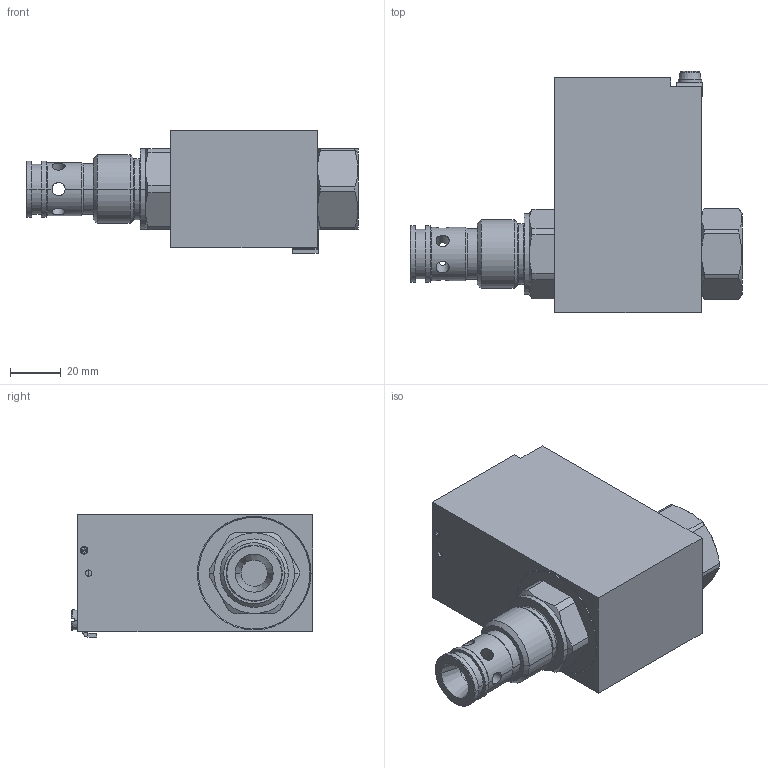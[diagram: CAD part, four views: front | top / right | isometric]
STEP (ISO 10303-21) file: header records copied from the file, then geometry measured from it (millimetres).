
FILE_DESCRIPTION((''),'2;1');
FILE_NAME('ASM0003_ASM','2023-10-05T',('l.soukupova'),(''),'PRO/ENGINEER BY PARAMETRIC TECHNOLOGY CORPORATION, 2015440','PRO/ENGINEER BY PARAMETRIC TECHNOLOGY CORPORATION, 2015440','');
FILE_SCHEMA(('AUTOMOTIVE_DESIGN { 1 0 10303 214 1 1 1 1 }'));
Length unit declared in the file: millimetre
Products named in the file (18): SDXE_C2_H_NO_NUT; SD3EX_C2_H2L2_453991_ASM; 0002710-2-SOLID1; 0002710-3-SOLID1; 0000980-1-SOLID1; 0003649-1-SOLID1; 0000882-1-SOLID1; 0003186-1_0002485-1-SOLID1; 0003186-1_0002629-1-SOLID1; AUFSATZ-LINEAR_AUSTRAGEN1; ASM0001_ASM; EX18-001-D-1-A-012-0_ASM; 0002632; 0003195; 0003194; 0003196_C_0_ASM; 0003196_ASM; ASM0003_ASM
Assembly tree (17 placements, depth 4):
  ASM0003_ASM
    SD3EX_C2_H2L2_453991_ASM
      SDXE_C2_H_NO_NUT
    EX18-001-D-1-A-012-0_ASM
      ASM0001_ASM
        0002710-2-SOLID1
        0002710-3-SOLID1
        0000980-1-SOLID1
        0003649-1-SOLID1
        0000882-1-SOLID1
        0003186-1_0002485-1-SOLID1
        0003186-1_0002629-1-SOLID1
        AUFSATZ-LINEAR_AUSTRAGEN1
    0003196_ASM
      0003196_C_0_ASM
        0002632
        0003195
        0003194
Bounding box: 130.85 x 95 x 48.25 mm (x, y, z)
Volume: 245955.5 mm3; surface area: 59518.6 mm2
Topology: 12 solids, 12 shells, 535 faces, 1485 edges, 1057 vertices
Faces by surface type: plane 280, cylinder 163, cone 62, torus 26, bspline 4
Entity records: 28709 total; most frequent: CARTESIAN_POINT 5530, DIRECTION 3200, ORIENTED_EDGE 2818, PRESENTATION_STYLE_ASSIGNMENT 1982, STYLED_ITEM 1527, CURVE_STYLE 1515, EDGE_CURVE 1409, AXIS2_PLACEMENT_3D 1191
